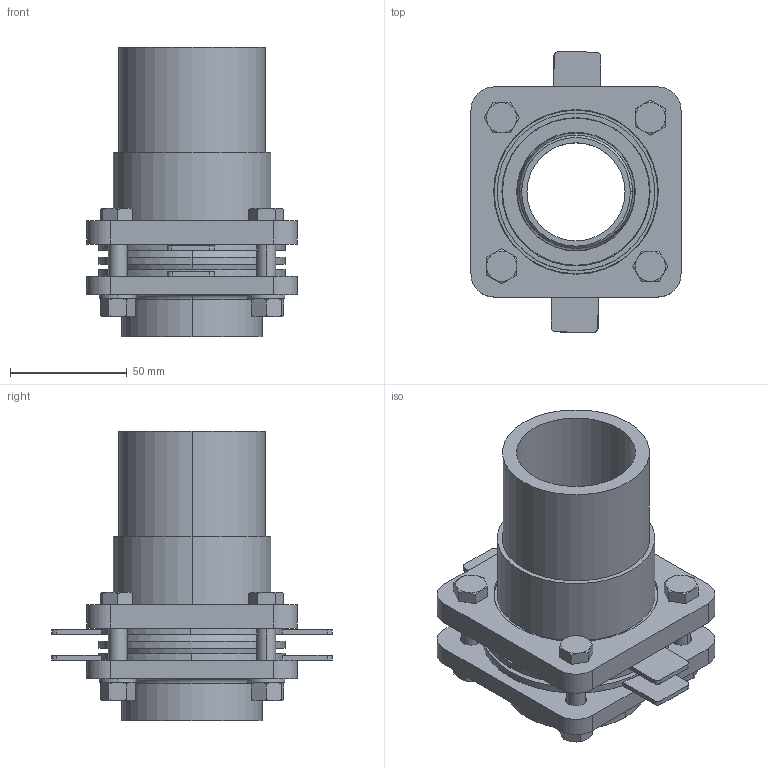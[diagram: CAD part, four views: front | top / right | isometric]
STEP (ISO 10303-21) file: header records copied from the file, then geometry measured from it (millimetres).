
FILE_DESCRIPTION (( 'STEP AP203' ), '1' );
FILE_NAME ('KP_C16-63_54F.step', '2011-08-08T12:01:09', ( '' ), ( '' ), 'SwSTEP 2.0', 'SolidWorks 2011', '' );
FILE_SCHEMA (( 'CONFIG_CONTROL_DESIGN' ));
Length unit declared in the file: millimetre
Products named in the file (1): KP_C16-63_54F
Bounding box: 90 x 120.17 x 124 mm (x, y, z)
Volume: 286362.7 mm3; surface area: 113808.8 mm2
Topology: 1 solids, 1 shells, 375 faces, 866 edges, 538 vertices
Faces by surface type: plane 125, cone 122, cylinder 110, torus 14, bspline 4
Entity records: 18691 total; most frequent: CARTESIAN_POINT 10203, DIRECTION 1760, ORIENTED_EDGE 1732, EDGE_CURVE 866, AXIS2_PLACEMENT_3D 725, VERTEX_POINT 538, EDGE_LOOP 430, FACE_OUTER_BOUND 375
